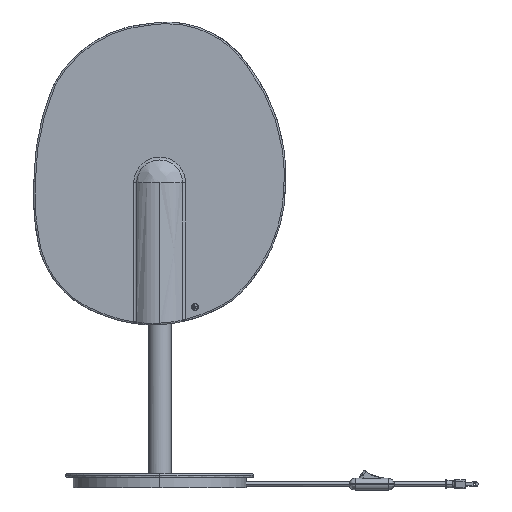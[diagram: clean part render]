
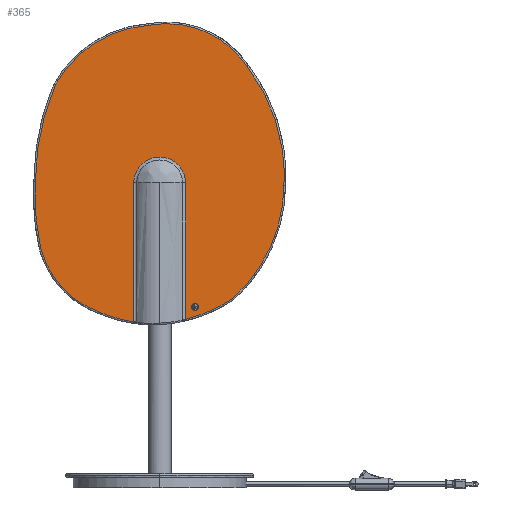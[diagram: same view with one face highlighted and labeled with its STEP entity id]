
A CAD part, front view. The second image highlights one B-rep face of the part: STEP entity #365.
In plain terms, the highlighted planar face has unit normal (0, -1, 0).
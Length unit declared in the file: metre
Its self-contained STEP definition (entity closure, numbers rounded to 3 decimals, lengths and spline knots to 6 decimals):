
#87=FACE_BOUND('',#1440,.T.);
#365=ADVANCED_FACE('',(#896,#87),#8468,.T.);
#896=FACE_OUTER_BOUND('',#1439,.T.);
#1439=EDGE_LOOP('',(#3019,#3020,#3021,#3022,#3023,#3024,#3025,#3026,#3027,
#3028,#3029,#3030));
#1440=EDGE_LOOP('',(#3031,#3032,#3033));
#3019=ORIENTED_EDGE('',*,*,#5216,.F.);
#3020=ORIENTED_EDGE('',*,*,#5225,.F.);
#3021=ORIENTED_EDGE('',*,*,#5228,.F.);
#3022=ORIENTED_EDGE('',*,*,#5231,.F.);
#3023=ORIENTED_EDGE('',*,*,#5234,.F.);
#3024=ORIENTED_EDGE('',*,*,#5238,.F.);
#3025=ORIENTED_EDGE('',*,*,#5240,.F.);
#3026=ORIENTED_EDGE('',*,*,#5242,.F.);
#3027=ORIENTED_EDGE('',*,*,#5218,.F.);
#3028=ORIENTED_EDGE('',*,*,#5197,.F.);
#3029=ORIENTED_EDGE('',*,*,#5206,.F.);
#3030=ORIENTED_EDGE('',*,*,#5196,.F.);
#3031=ORIENTED_EDGE('',*,*,#5191,.F.);
#3032=ORIENTED_EDGE('',*,*,#5195,.F.);
#3033=ORIENTED_EDGE('',*,*,#5190,.T.);
#5190=EDGE_CURVE('',#7701,#7702,#6005,.T.);
#5191=EDGE_CURVE('',#7717,#7702,#6006,.T.);
#5195=EDGE_CURVE('',#7701,#7717,#6008,.T.);
#5196=EDGE_CURVE('',#7705,#7706,#6748,.T.);
#5197=EDGE_CURVE('',#7716,#7715,#6749,.T.);
#5206=EDGE_CURVE('',#7706,#7716,#6012,.T.);
#5216=EDGE_CURVE('',#7707,#7705,#6015,.T.);
#5218=EDGE_CURVE('',#7715,#7714,#6017,.T.);
#5225=EDGE_CURVE('',#7708,#7707,#6021,.T.);
#5228=EDGE_CURVE('',#7709,#7708,#6023,.T.);
#5231=EDGE_CURVE('',#7710,#7709,#6025,.T.);
#5234=EDGE_CURVE('',#7711,#7710,#6027,.T.);
#5238=EDGE_CURVE('',#7712,#7711,#6029,.T.);
#5240=EDGE_CURVE('',#7713,#7712,#6030,.T.);
#5242=EDGE_CURVE('',#7714,#7713,#6031,.T.);
#6005=(
BOUNDED_CURVE()
B_SPLINE_CURVE(2,(#15969,#15970,#15971),.UNSPECIFIED.,.F.,.F.)
B_SPLINE_CURVE_WITH_KNOTS((3,3),(-2.061991,0.),.UNSPECIFIED.)
CURVE()
GEOMETRIC_REPRESENTATION_ITEM()
RATIONAL_B_SPLINE_CURVE((1.,0.975,1.))
REPRESENTATION_ITEM('')
);
#6006=(
BOUNDED_CURVE()
B_SPLINE_CURVE(2,(#15972,#15973,#15974,#15975,#15976),.UNSPECIFIED.,.F.,
 .F.)
B_SPLINE_CURVE_WITH_KNOTS((3,2,3),(14.430733,21.6461,28.861466),
 .UNSPECIFIED.)
CURVE()
GEOMETRIC_REPRESENTATION_ITEM()
RATIONAL_B_SPLINE_CURVE((1.,0.707,1.,0.707,1.))
REPRESENTATION_ITEM('')
);
#6008=(
BOUNDED_CURVE()
B_SPLINE_CURVE(2,(#15986,#15987,#15988,#15989,#15990),.UNSPECIFIED.,.F.,
 .F.)
B_SPLINE_CURVE_WITH_KNOTS((3,2,3),(2.061991,8.246362,14.430733),
 .UNSPECIFIED.)
CURVE()
GEOMETRIC_REPRESENTATION_ITEM()
RATIONAL_B_SPLINE_CURVE((1.,0.782,1.,0.782,1.))
REPRESENTATION_ITEM('')
);
#6012=(
BOUNDED_CURVE()
B_SPLINE_CURVE(2,(#16027,#16028,#16029,#16030,#16031),.UNSPECIFIED.,.F.,
 .F.)
B_SPLINE_CURVE_WITH_KNOTS((3,2,3),(-107.782779,-53.89139,
0.),.UNSPECIFIED.)
CURVE()
GEOMETRIC_REPRESENTATION_ITEM()
RATIONAL_B_SPLINE_CURVE((1.,0.707,1.,0.707,1.))
REPRESENTATION_ITEM('')
);
#6015=(
BOUNDED_CURVE()
B_SPLINE_CURVE(2,(#16076,#16077,#16078),.UNSPECIFIED.,.F.,.F.)
B_SPLINE_CURVE_WITH_KNOTS((3,3),(-68.71534,0.),.UNSPECIFIED.)
CURVE()
GEOMETRIC_REPRESENTATION_ITEM()
RATIONAL_B_SPLINE_CURVE((1.,0.984,1.))
REPRESENTATION_ITEM('')
);
#6017=(
BOUNDED_CURVE()
B_SPLINE_CURVE(2,(#16082,#16083,#16084),.UNSPECIFIED.,.F.,.F.)
B_SPLINE_CURVE_WITH_KNOTS((3,3),(-44.144952,0.),.UNSPECIFIED.)
CURVE()
GEOMETRIC_REPRESENTATION_ITEM()
RATIONAL_B_SPLINE_CURVE((1.,0.992,1.))
REPRESENTATION_ITEM('')
);
#6021=(
BOUNDED_CURVE()
B_SPLINE_CURVE(2,(#16122,#16123,#16124),.UNSPECIFIED.,.F.,.F.)
B_SPLINE_CURVE_WITH_KNOTS((3,3),(-169.987101,0.),.UNSPECIFIED.)
CURVE()
GEOMETRIC_REPRESENTATION_ITEM()
RATIONAL_B_SPLINE_CURVE((1.,0.914,1.))
REPRESENTATION_ITEM('')
);
#6023=(
BOUNDED_CURVE()
B_SPLINE_CURVE(2,(#16134,#16135,#16136),.UNSPECIFIED.,.F.,.F.)
B_SPLINE_CURVE_WITH_KNOTS((3,3),(-170.166184,0.),.UNSPECIFIED.)
CURVE()
GEOMETRIC_REPRESENTATION_ITEM()
RATIONAL_B_SPLINE_CURVE((1.,0.937,1.))
REPRESENTATION_ITEM('')
);
#6025=(
BOUNDED_CURVE()
B_SPLINE_CURVE(2,(#16146,#16147,#16148),.UNSPECIFIED.,.F.,.F.)
B_SPLINE_CURVE_WITH_KNOTS((3,3),(-148.948517,0.),.UNSPECIFIED.)
CURVE()
GEOMETRIC_REPRESENTATION_ITEM()
RATIONAL_B_SPLINE_CURVE((1.,0.838,1.))
REPRESENTATION_ITEM('')
);
#6027=(
BOUNDED_CURVE()
B_SPLINE_CURVE(2,(#16158,#16159,#16160),.UNSPECIFIED.,.F.,.F.)
B_SPLINE_CURVE_WITH_KNOTS((3,3),(-153.374002,0.),.UNSPECIFIED.)
CURVE()
GEOMETRIC_REPRESENTATION_ITEM()
RATIONAL_B_SPLINE_CURVE((1.,0.88,1.))
REPRESENTATION_ITEM('')
);
#6029=(
BOUNDED_CURVE()
B_SPLINE_CURVE(2,(#16176,#16177,#16178),.UNSPECIFIED.,.F.,.F.)
B_SPLINE_CURVE_WITH_KNOTS((3,3),(-131.573061,0.),.UNSPECIFIED.)
CURVE()
GEOMETRIC_REPRESENTATION_ITEM()
RATIONAL_B_SPLINE_CURVE((1.,0.98,1.))
REPRESENTATION_ITEM('')
);
#6030=(
BOUNDED_CURVE()
B_SPLINE_CURVE(2,(#16185,#16186,#16187),.UNSPECIFIED.,.F.,.F.)
B_SPLINE_CURVE_WITH_KNOTS((3,3),(-89.616689,0.),.UNSPECIFIED.)
CURVE()
GEOMETRIC_REPRESENTATION_ITEM()
RATIONAL_B_SPLINE_CURVE((1.,0.991,1.))
REPRESENTATION_ITEM('')
);
#6031=(
BOUNDED_CURVE()
B_SPLINE_CURVE(2,(#16194,#16195,#16196),.UNSPECIFIED.,.F.,.F.)
B_SPLINE_CURVE_WITH_KNOTS((3,3),(-122.938368,0.),.UNSPECIFIED.)
CURVE()
GEOMETRIC_REPRESENTATION_ITEM()
RATIONAL_B_SPLINE_CURVE((1.,0.881,1.))
REPRESENTATION_ITEM('')
);
#6748=B_SPLINE_CURVE_WITH_KNOTS('',1,(#15991,#15992),.UNSPECIFIED.,.F.,
 .F.,(2,2),(-181.191843,0.),.UNSPECIFIED.);
#6749=B_SPLINE_CURVE_WITH_KNOTS('',1,(#15993,#15994),.UNSPECIFIED.,.F.,
 .F.,(2,2),(-184.649663,0.),.UNSPECIFIED.);
#7701=VERTEX_POINT('',#14878);
#7702=VERTEX_POINT('',#14879);
#7705=VERTEX_POINT('',#14882);
#7706=VERTEX_POINT('',#14883);
#7707=VERTEX_POINT('',#14884);
#7708=VERTEX_POINT('',#14885);
#7709=VERTEX_POINT('',#14886);
#7710=VERTEX_POINT('',#14887);
#7711=VERTEX_POINT('',#14888);
#7712=VERTEX_POINT('',#14889);
#7713=VERTEX_POINT('',#14890);
#7714=VERTEX_POINT('',#14891);
#7715=VERTEX_POINT('',#14892);
#7716=VERTEX_POINT('',#14893);
#7717=VERTEX_POINT('',#14894);
#8468=PLANE('',#8797);
#8797=AXIS2_PLACEMENT_3D('',#13368,#9109,$);
#9109=DIRECTION('',(0.,-1.,0.));
#13368=CARTESIAN_POINT('',(-201.412929,-6.707874,178.956692));
#14878=CARTESIAN_POINT('',(51.366835,-6.707874,239.893567));
#14879=CARTESIAN_POINT('',(50.911742,-6.707874,237.900133));
#14882=CARTESIAN_POINT('',(34.156596,-6.707874,223.490743));
#14883=CARTESIAN_POINT('',(34.156596,-6.707874,404.682586));
#14884=CARTESIAN_POINT('',(96.690691,-6.707874,251.058892));
#14885=CARTESIAN_POINT('',(164.896684,-6.707874,401.425804));
#14886=CARTESIAN_POINT('',(115.210654,-6.707874,560.433488));
#14887=CARTESIAN_POINT('',(-15.03377,-6.707874,613.970361));
#14888=CARTESIAN_POINT('',(-138.945204,-6.707874,534.527818));
#14889=CARTESIAN_POINT('',(-165.19985,-6.707874,406.479674));
#14890=CARTESIAN_POINT('',(-158.157394,-6.707874,317.399181));
#14891=CARTESIAN_POINT('',(-76.879219,-6.707874,231.821435));
#14892=CARTESIAN_POINT('',(-34.460053,-6.707874,220.032924));
#14893=CARTESIAN_POINT('',(-34.460053,-6.707874,404.682586));
#14894=CARTESIAN_POINT('',(42.635038,-6.707874,241.887001));
#15969=CARTESIAN_POINT('',(51.366835,-6.707874,239.893567));
#15970=CARTESIAN_POINT('',(51.366835,-6.707874,238.844902));
#15971=CARTESIAN_POINT('',(50.911742,-6.707874,237.900133));
#15972=CARTESIAN_POINT('',(42.635038,-6.707874,241.887001));
#15973=CARTESIAN_POINT('',(40.641604,-6.707874,237.748649));
#15974=CARTESIAN_POINT('',(44.779956,-6.707874,235.755215));
#15975=CARTESIAN_POINT('',(48.918308,-6.707874,233.761781));
#15976=CARTESIAN_POINT('',(50.911742,-6.707874,237.900133));
#15986=CARTESIAN_POINT('',(51.366835,-6.707874,239.893567));
#15987=CARTESIAN_POINT('',(51.366835,-6.707874,243.55653));
#15988=CARTESIAN_POINT('',(47.795751,-6.707874,244.371794));
#15989=CARTESIAN_POINT('',(44.224667,-6.707874,245.187058));
#15990=CARTESIAN_POINT('',(42.635038,-6.707874,241.887001));
#15991=CARTESIAN_POINT('',(34.156596,-6.707874,223.490743));
#15992=CARTESIAN_POINT('',(34.156596,-6.707874,404.682586));
#15993=CARTESIAN_POINT('',(-34.460053,-6.707874,404.682586));
#15994=CARTESIAN_POINT('',(-34.460053,-6.707874,220.032924));
#16027=CARTESIAN_POINT('',(34.156596,-6.707874,404.682586));
#16028=CARTESIAN_POINT('',(34.156596,-6.707874,438.990911));
#16029=CARTESIAN_POINT('',(-0.151728,-6.707874,438.990911));
#16030=CARTESIAN_POINT('',(-34.460053,-6.707874,438.990911));
#16031=CARTESIAN_POINT('',(-34.460053,-6.707874,404.682586));
#16076=CARTESIAN_POINT('',(96.690691,-6.707874,251.058892));
#16077=CARTESIAN_POINT('',(67.944732,-6.707874,231.556117));
#16078=CARTESIAN_POINT('',(34.156596,-6.707874,223.490743));
#16082=CARTESIAN_POINT('',(-34.460053,-6.707874,220.032924));
#16083=CARTESIAN_POINT('',(-56.421068,-6.707874,223.223265));
#16084=CARTESIAN_POINT('',(-76.879219,-6.707874,231.821435));
#16122=CARTESIAN_POINT('',(164.896684,-6.707874,401.425804));
#16123=CARTESIAN_POINT('',(164.061147,-6.707874,311.152325));
#16124=CARTESIAN_POINT('',(96.690691,-6.707874,251.058892));
#16134=CARTESIAN_POINT('',(115.210654,-6.707874,560.433488));
#16135=CARTESIAN_POINT('',(169.638289,-6.707874,490.17412));
#16136=CARTESIAN_POINT('',(164.896684,-6.707874,401.425804));
#16146=CARTESIAN_POINT('',(-15.03377,-6.707874,613.970361));
#16147=CARTESIAN_POINT('',(67.514182,-6.707874,629.59524));
#16148=CARTESIAN_POINT('',(115.210654,-6.707874,560.433488));
#16158=CARTESIAN_POINT('',(-138.945204,-6.707874,534.527818));
#16159=CARTESIAN_POINT('',(-98.423784,-6.707874,607.681485));
#16160=CARTESIAN_POINT('',(-15.03377,-6.707874,613.970361));
#16176=CARTESIAN_POINT('',(-165.19985,-6.707874,406.479674));
#16177=CARTESIAN_POINT('',(-164.940836,-6.707874,473.142229));
#16178=CARTESIAN_POINT('',(-138.945204,-6.707874,534.527818));
#16185=CARTESIAN_POINT('',(-158.157394,-6.707874,317.399181));
#16186=CARTESIAN_POINT('',(-167.571909,-6.707874,361.473521));
#16187=CARTESIAN_POINT('',(-165.19985,-6.707874,406.479674));
#16194=CARTESIAN_POINT('',(-76.879219,-6.707874,231.821435));
#16195=CARTESIAN_POINT('',(-140.490909,-6.707874,252.791887));
#16196=CARTESIAN_POINT('',(-158.157394,-6.707874,317.399181));
